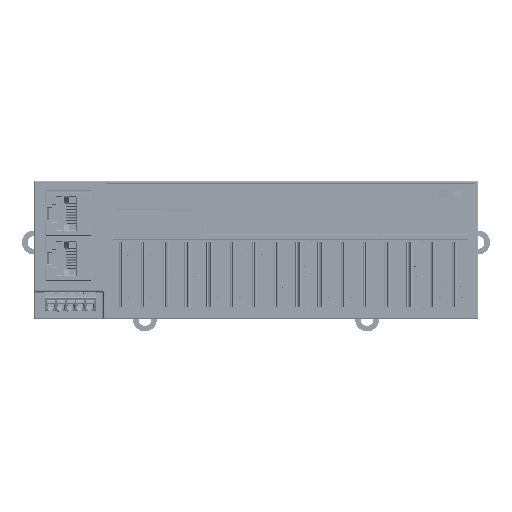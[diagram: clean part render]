
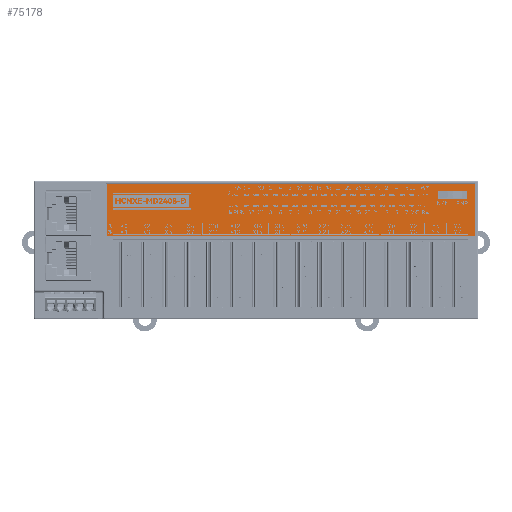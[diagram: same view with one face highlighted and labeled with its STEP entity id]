
A CAD part, top view. The second image highlights one B-rep face of the part: STEP entity #75178.
In plain terms, the highlighted planar face has unit normal (0, 0, 1).
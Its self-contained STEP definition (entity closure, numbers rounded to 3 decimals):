
#18228=DIRECTION('',(1.,0.,0.));
#18229=VECTOR('',#18228,132.66);
#18230=CARTESIAN_POINT('',(-52.83,1.22,24.));
#18231=LINE('',#18230,#18229);
#18236=DIRECTION('',(0.,-1.,0.));
#18237=VECTOR('',#18236,18.91);
#18238=CARTESIAN_POINT('',(-52.83,20.13,24.));
#18239=LINE('',#18238,#18237);
#18248=DIRECTION('',(1.,0.,0.));
#18249=VECTOR('',#18248,132.66);
#18250=CARTESIAN_POINT('',(-52.83,20.13,24.));
#18251=LINE('',#18250,#18249);
#18264=DIRECTION('',(0.,-1.,0.));
#18265=VECTOR('',#18264,18.91);
#18266=CARTESIAN_POINT('',(79.83,20.13,24.));
#18267=LINE('',#18266,#18265);
#18272=DIRECTION('',(1.,0.,0.));
#18273=VECTOR('',#18272,10.4);
#18274=CARTESIAN_POINT('',(66.55,17.655,24.));
#18275=LINE('',#18274,#18273);
#18276=DIRECTION('',(0.,-1.,0.));
#18277=VECTOR('',#18276,2.9);
#18278=CARTESIAN_POINT('',(66.55,17.655,24.));
#18279=LINE('',#18278,#18277);
#18284=DIRECTION('',(1.,0.,0.));
#18285=VECTOR('',#18284,10.4);
#18286=CARTESIAN_POINT('',(66.55,14.755,24.));
#18287=LINE('',#18286,#18285);
#18296=DIRECTION('',(0.,-1.,0.));
#18297=VECTOR('',#18296,2.9);
#18298=CARTESIAN_POINT('',(76.95,17.655,24.));
#18299=LINE('',#18298,#18297);
#41637=CARTESIAN_POINT('',(-52.83,1.22,24.));
#41638=CARTESIAN_POINT('',(79.83,1.22,24.));
#41639=VERTEX_POINT('',#41637);
#41640=VERTEX_POINT('',#41638);
#41641=CARTESIAN_POINT('',(79.83,20.13,24.));
#41642=VERTEX_POINT('',#41641);
#41643=CARTESIAN_POINT('',(-52.83,20.13,24.));
#41644=VERTEX_POINT('',#41643);
#41645=CARTESIAN_POINT('',(66.55,17.655,24.));
#41646=CARTESIAN_POINT('',(76.95,17.655,24.));
#41647=VERTEX_POINT('',#41645);
#41648=VERTEX_POINT('',#41646);
#41649=CARTESIAN_POINT('',(76.95,14.755,24.));
#41650=VERTEX_POINT('',#41649);
#41651=CARTESIAN_POINT('',(66.55,14.755,24.));
#41652=VERTEX_POINT('',#41651);
#75157=CARTESIAN_POINT('',(13.5,10.675,24.));
#75158=DIRECTION('',(0.,0.,1.));
#75159=DIRECTION('',(1.,0.,0.));
#75160=AXIS2_PLACEMENT_3D('',#75157,#75158,#75159);
#75161=PLANE('',#75160);
#75162=ORIENTED_EDGE('',*,*,#75109,.F.);
#75163=ORIENTED_EDGE('',*,*,#75124,.F.);
#75164=ORIENTED_EDGE('',*,*,#75138,.T.);
#75165=ORIENTED_EDGE('',*,*,#75151,.T.);
#75166=EDGE_LOOP('',(#75162,#75163,#75164,#75165));
#75167=FACE_OUTER_BOUND('',#75166,.F.);
#75169=ORIENTED_EDGE('',*,*,#75168,.F.);
#75171=ORIENTED_EDGE('',*,*,#75170,.T.);
#75173=ORIENTED_EDGE('',*,*,#75172,.T.);
#75175=ORIENTED_EDGE('',*,*,#75174,.F.);
#75176=EDGE_LOOP('',(#75169,#75171,#75173,#75175));
#75177=FACE_BOUND('',#75176,.F.);
#75178=ADVANCED_FACE('',(#75167,#75177),#75161,.T.);
#75109=EDGE_CURVE('',#41639,#41640,#18231,.T.);
#75124=EDGE_CURVE('',#41644,#41639,#18239,.T.);
#75138=EDGE_CURVE('',#41644,#41642,#18251,.T.);
#75151=EDGE_CURVE('',#41642,#41640,#18267,.T.);
#75168=EDGE_CURVE('',#41647,#41648,#18275,.T.);
#75170=EDGE_CURVE('',#41647,#41652,#18279,.T.);
#75172=EDGE_CURVE('',#41652,#41650,#18287,.T.);
#75174=EDGE_CURVE('',#41648,#41650,#18299,.T.);
